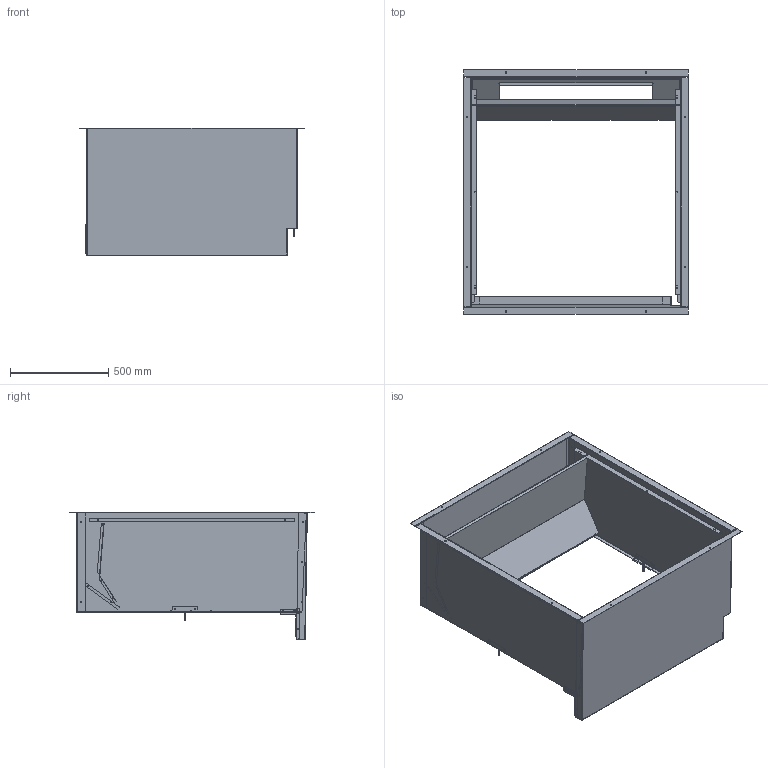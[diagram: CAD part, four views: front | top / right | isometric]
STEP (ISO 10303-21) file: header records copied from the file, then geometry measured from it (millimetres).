
FILE_DESCRIPTION (( 'STEP AP203' ), '1' );
FILE_NAME ('QWS48A-20.STEP', '2014-03-14T15:00:45', ( 'generic' ), ( 'Hewlett-Packard Company' ), 'SwSTEP 2.0', 'SolidWorks 2014', '' );
FILE_SCHEMA (( 'CONFIG_CONTROL_DESIGN' ));
Length unit declared in the file: inch
Products named in the file (11): 120-432; 110-132_no dimples; 136-450; 104-1060; 110-135; 1012-036; 110-131; QWS48A-20; 110-136; 130-128; 104-988
Assembly tree (13 placements, depth 2):
  QWS48A-20
    110-135
    110-131
    110-136
    130-128
    104-988  x2
    120-432
    110-132_no dimples
    136-450
    104-1060  x2
    1012-036  x2
Bounding box: 1140.39 x 1244.35 x 649.16 mm (x, y, z)
Volume: 5073178.1 mm3; surface area: 7282433.5 mm2
Topology: 13 solids, 13 shells, 994 faces, 2328 edges, 1342 vertices
Faces by surface type: plane 397, cylinder 329, cone 236, bspline 32
Entity records: 26147 total; most frequent: CARTESIAN_POINT 5698, DIRECTION 4070, ORIENTED_EDGE 3890, EDGE_CURVE 1945, AXIS2_PLACEMENT_3D 1467, VECTOR 1136, LINE 1136, VERTEX_POINT 1133
